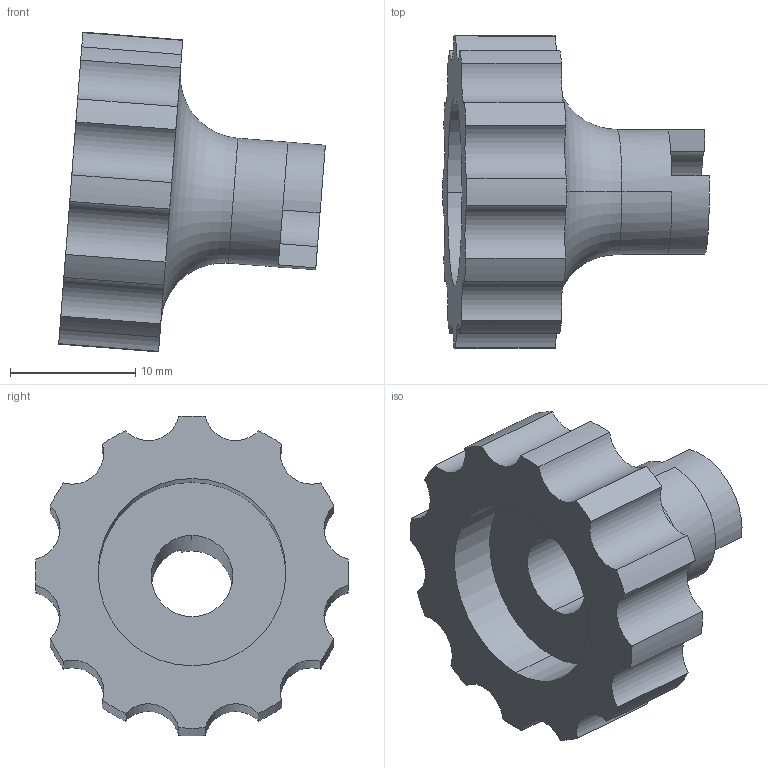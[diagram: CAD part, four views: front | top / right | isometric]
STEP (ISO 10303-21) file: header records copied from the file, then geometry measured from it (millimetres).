
FILE_DESCRIPTION((''),'2;1');
FILE_NAME('0000237086_PRT','2025-11-12T18:35:35',('Wyndorps'),(''),'CREO PARAMETRIC BY PTC INC, 2025010','CREO PARAMETRIC BY PTC INC, 2025010','');
FILE_SCHEMA(('CONFIG_CONTROL_DESIGN'));
Length unit declared in the file: millimetre
Products named in the file (1): 0000237086_PRT
Bounding box: 21.29 x 24.99 x 25.53 mm (x, y, z)
Volume: 3338.4 mm3; surface area: 2319.5 mm2
Topology: 1 solids, 1 shells, 43 faces, 118 edges, 78 vertices
Faces by surface type: cylinder 30, plane 11, torus 2
Entity records: 1450 total; most frequent: DIRECTION 276, CARTESIAN_POINT 239, ORIENTED_EDGE 236, EDGE_CURVE 118, AXIS2_PLACEMENT_3D 115, VERTEX_POINT 78, CIRCLE 72, VECTOR 46
